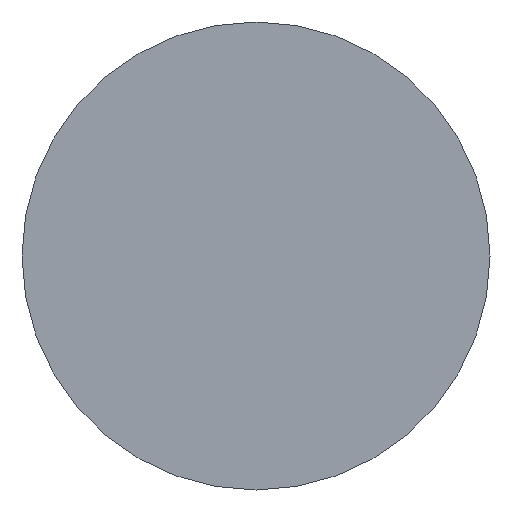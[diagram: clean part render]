
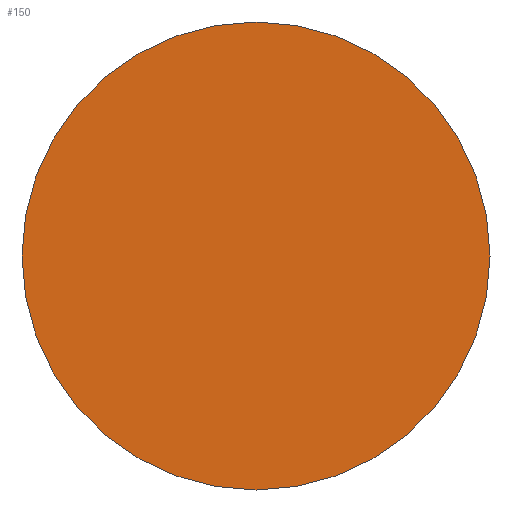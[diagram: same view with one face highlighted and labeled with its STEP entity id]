
A CAD part, front view. The second image highlights one B-rep face of the part: STEP entity #150.
In plain terms, the highlighted planar face has unit normal (0, -1, 0).
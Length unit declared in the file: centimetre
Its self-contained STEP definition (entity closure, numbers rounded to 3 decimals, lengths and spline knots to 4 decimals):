
#121=VERTEX_POINT('',#531);
#125=CIRCLE('',#362,0.41);
#128=EDGE_CURVE('',#121,#121,#125,.T.);
#131=ORIENTED_EDGE('',*,*,#128,.F.);
#137=EDGE_LOOP('',(#131));
#143=FACE_BOUND('',#137,.T.);
#150=ADVANCED_FACE('',(#143),#392,.T.);
#361=AXIS2_PLACEMENT_3D('',#529,#470,$);
#362=AXIS2_PLACEMENT_3D('',#530,#471,#472);
#392=PLANE('',#361);
#470=DIRECTION('',(0.,-1.,0.));
#471=DIRECTION('',(0.,1.,0.));
#472=DIRECTION('',(0.41,0.,0.));
#529=CARTESIAN_POINT('',(0.205,0.,0.));
#530=CARTESIAN_POINT('',(0.,0.,0.));
#531=CARTESIAN_POINT('',(0.41,0.,0.));
